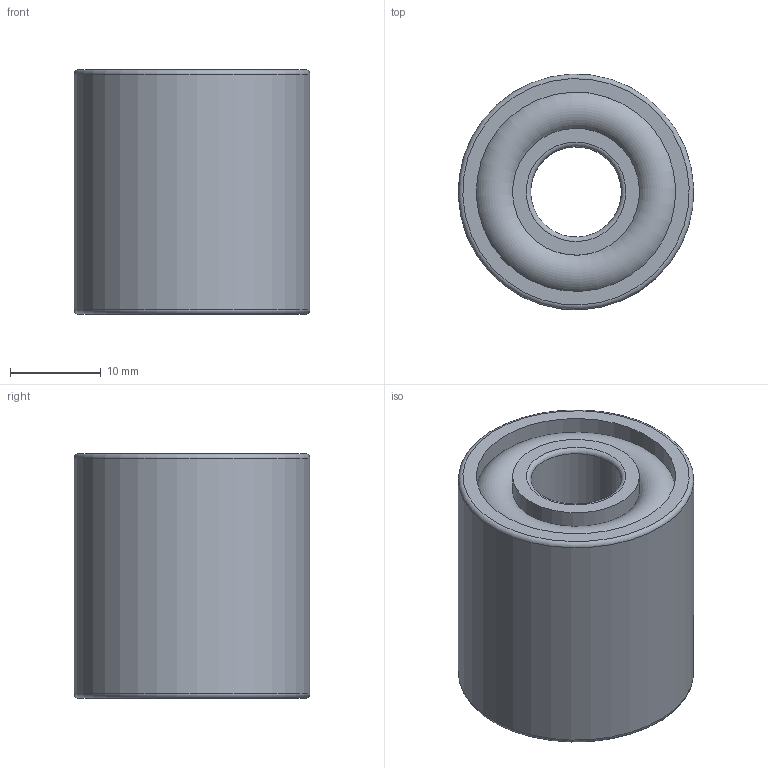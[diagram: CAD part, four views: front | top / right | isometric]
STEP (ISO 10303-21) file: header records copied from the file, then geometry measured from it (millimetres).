
FILE_DESCRIPTION(/* description */ (''),/* implementation_level */ '2;1');
FILE_NAME(/* name */ '300656 FP 422 Z.stp',/* time_stamp */ '2016-11-17T13:35:28+01:00',/* author */ (''),/* organization */ (''),/* preprocessor_version */ 'ST-DEVELOPER v15',/* originating_system */ 'SIEMENS PLM Software NX 8.5',/* authorisation */ '');
FILE_SCHEMA (('CONFIG_CONTROL_DESIGN'));
Length unit declared in the file: millimetre
Products named in the file (3): ATE0000080_01; ATE0000093_01; ATE0000095_01
Assembly tree (2 placements, depth 2):
  ATE0000095_01
    ATE0000093_01
    ATE0000080_01
Bounding box: 25.97 x 25.97 x 27 mm (x, y, z)
Volume: 9541.6 mm3; surface area: 9912.3 mm2
Topology: 3 solids, 3 shells, 72 faces, 157 edges, 103 vertices
Faces by surface type: plane 44, cylinder 22, torus 6
Full cylindrical faces by diameter (mm): 10 x1, 14 x3, 18 x1, 19 x1, 20 x1, 21 x2, 22 x4, 26 x1
Entity records: 2128 total; most frequent: DIRECTION 342, CARTESIAN_POINT 299, ORIENTED_EDGE 256, AXIS2_PLACEMENT_3D 139, EDGE_CURVE 128, EDGE_LOOP 112, VERTEX_POINT 96, ADVANCED_FACE 72
